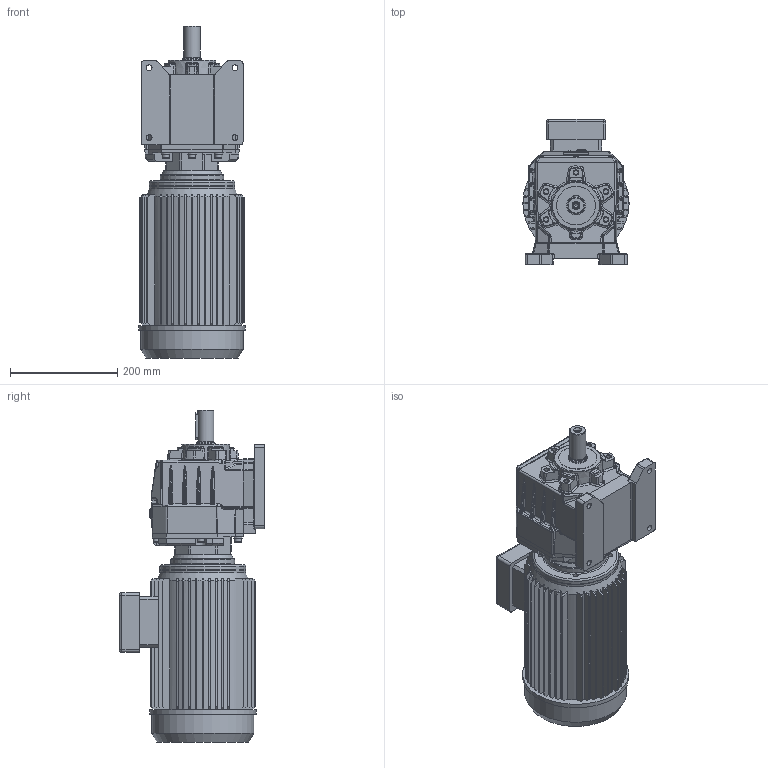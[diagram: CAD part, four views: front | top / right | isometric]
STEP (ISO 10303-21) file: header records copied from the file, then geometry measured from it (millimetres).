
FILE_DESCRIPTION( ( 'Unknown' ), '1' );
FILE_NAME( 'E:/services/configuratordownloads/customers/HYDROMEC/COASSIALI/download/85D33A4DC4F3245445B52F91C15ECB/STEP/85D33A4DC4F3245445B52F91C15ECB.3d.stp', 'Unknown', ( 'Unknown' ), ( 'Unknown' ), 'PSStep 10.1', 'Unknown', ' ' );
FILE_SCHEMA( ( 'AUTOMOTIVE_DESIGN { 1 0 10303 214 1 1 1 1 }' ) );
Length unit declared in the file: millimetre
Products named in the file (1): C518800
Bounding box: 198 x 271.27 x 618.4 mm (x, y, z)
Volume: 14027580.3 mm3; surface area: 789942.6 mm2
Topology: 1 solids, 35 shells, 1763 faces, 4383 edges, 2744 vertices
Faces by surface type: plane 892, cylinder 436, bspline 215, cone 115, torus 73, sphere 20, revolution 8, extrusion 4
Full cylindrical faces by diameter (mm): 4.917 x6, 6 x6, 6.5 x1, 6.8 x8, 7.262 x6, 8 x1, 8.376 x11, 8.5 x8, 9 x4, 10 x6, 10.106 x8, 10.5 x1, 11 x4, 11.3 x1, 11.445 x2, 12.75 x8, 13 x7, 13.5 x1, 18 x1, 19 x1, 20 x1, 22 x1, 28.6 x1, 30 x1, 35 x1, 45 x1, 62 x1, 68 x1, 72 x1, 103 x1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
Entity records: 84525 total; most frequent: CARTESIAN_POINT 30343, DIRECTION 8305, ORIENTED_EDGE 8162, EDGE_CURVE 4081, AXIS2_PLACEMENT_3D 3037, VERTEX_POINT 2659, VECTOR 2223, LINE 2219
